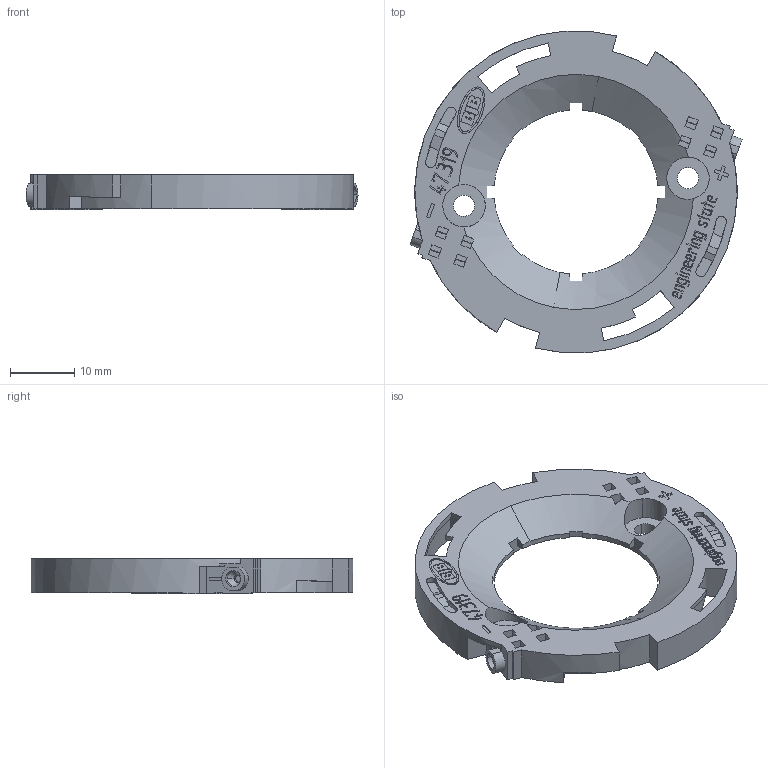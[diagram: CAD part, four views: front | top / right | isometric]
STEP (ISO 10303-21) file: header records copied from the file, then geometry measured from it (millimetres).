
FILE_DESCRIPTION((' '),'1');
FILE_NAME('01TYA3QY03.stp','2014-02-26 T13:52:14',(''),(''),'STEP Interface 2013.192 by CT CoreTechnologie','3D_Evolution2013.192 by CT CoreTechnologie','');
FILE_SCHEMA(('AP203_CONFIGURATION_CONTROLLED_3D_DESIGN_OF_MECHANICAL_PARTS_AND_ASSEMBLIES_MIM_LF'));
Length unit declared in the file: millimetre
Products named in the file (1): 01TYA3QY03
Bounding box: 51.5 x 49.89 x 5.45 mm (x, y, z)
Volume: 3307.8 mm3; surface area: 6550.9 mm2
Topology: 3 solids, 3 shells, 772 faces, 2132 edges, 1416 vertices
Faces by surface type: plane 555, cylinder 133, bspline 84
Entity records: 32826 total; most frequent: CARTESIAN_POINT 7024, ORIENTED_EDGE 4264, DIRECTION 3740, EDGE_CURVE 2132, VECTOR 1656, LINE 1656, VERTEX_POINT 1416, AXIS2_PLACEMENT_3D 1042
